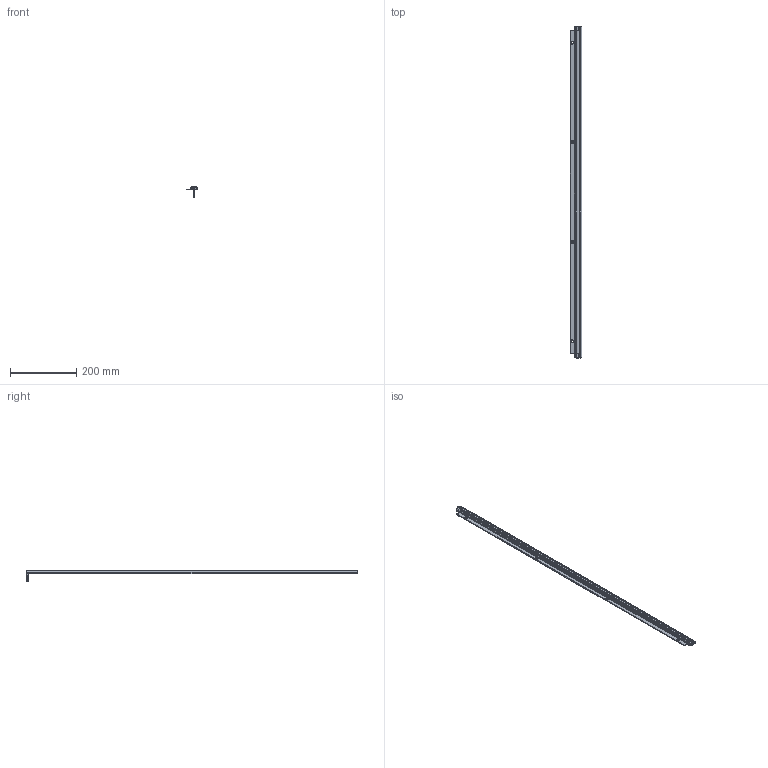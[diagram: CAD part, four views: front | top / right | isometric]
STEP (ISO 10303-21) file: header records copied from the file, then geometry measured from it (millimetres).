
FILE_DESCRIPTION (( 'STEP AP214' ), '1' );
FILE_NAME ('ILGA-L-K1a-1000mm.STEP', '2026-04-24T23:09:16', ( '' ), ( '' ), 'SwSTEP 2.0', 'SolidWorks 2025', '' );
FILE_SCHEMA (( 'AUTOMOTIVE_DESIGN' ));
Length unit declared in the file: millimetre
Products named in the file (1): ILGA-L-K1a-1000mm
Bounding box: 35 x 1000 x 34.2 mm (x, y, z)
Volume: 104686 mm3; surface area: 154552.6 mm2
Topology: 9 solids, 9 shells, 684 faces, 1778 edges, 1086 vertices
Faces by surface type: plane 293, cylinder 247, cone 60, torus 44, bspline 24, sphere 16
Entity records: 28741 total; most frequent: CARTESIAN_POINT 4449, DIRECTION 3632, ORIENTED_EDGE 3468, EDGE_CURVE 1734, AXIS2_PLACEMENT_3D 1357, VERTEX_POINT 1086, VECTOR 918, LINE 918
